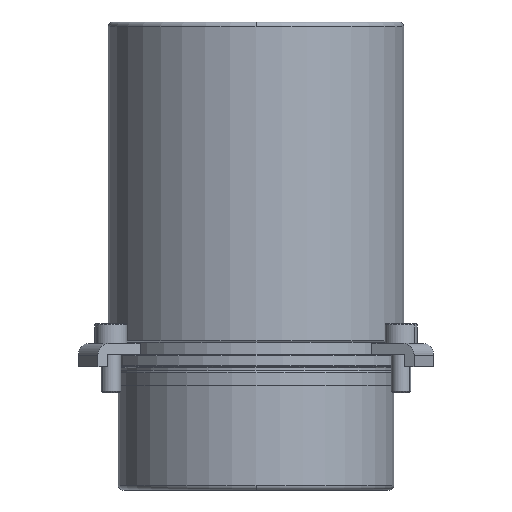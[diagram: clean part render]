
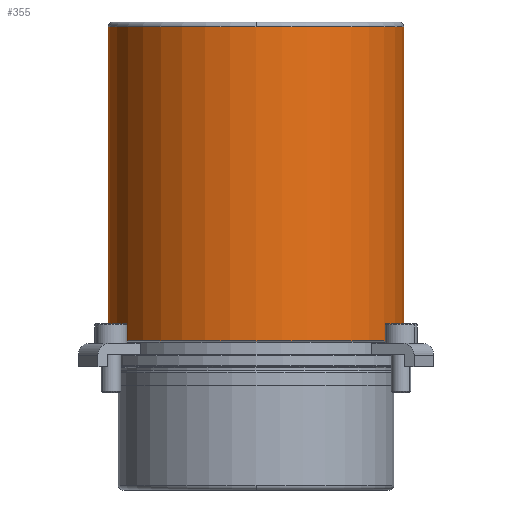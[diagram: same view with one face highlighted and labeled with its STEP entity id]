
A CAD part, front view. The second image highlights one B-rep face of the part: STEP entity #355.
In plain terms, the highlighted cylindrical face has radius 60 mm (diameter 120 mm), a partial arc.
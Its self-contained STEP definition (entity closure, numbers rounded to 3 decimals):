
#269=CARTESIAN_POINT('',(0.0,-60.,138.0));
#270=VERTEX_POINT('',#269);
#296=CARTESIAN_POINT('',(-60.0,0.,138.0));
#297=VERTEX_POINT('',#296);
#305=CARTESIAN_POINT('',(0.0,0.,138.0));
#306=DIRECTION('',(0.0,0.0,1.0));
#307=DIRECTION('',(1.0,0.0,0.0));
#308=AXIS2_PLACEMENT_3D('',#305,#306,#307);
#309=CIRCLE('',#308,60.0);
#310=EDGE_CURVE('',#297,#270,#309,.T.);
#315=CARTESIAN_POINT('',(0.0,0.,74.25));
#316=DIRECTION('',(0.0,0.,1.0));
#317=DIRECTION('',(1.0,0.0,0.0));
#318=AXIS2_PLACEMENT_3D('',#315,#316,#317);
#319=CYLINDRICAL_SURFACE('',#318,60.0);
#320=CARTESIAN_POINT('',(60.0,0.,138.0));
#321=VERTEX_POINT('',#320);
#322=CARTESIAN_POINT('',(60.0,0.,10.5));
#323=VERTEX_POINT('',#322);
#324=CARTESIAN_POINT('',(60.0,0.,138.0));
#325=DIRECTION('',(0.0,0.0,-1.0));
#326=VECTOR('',#325,127.5);
#327=LINE('',#324,#326);
#328=EDGE_CURVE('',#321,#323,#327,.T.);
#329=ORIENTED_EDGE('',*,*,#328,.F.);
#330=CARTESIAN_POINT('',(0.0,0.,138.0));
#331=DIRECTION('',(0.0,0.0,1.0));
#332=DIRECTION('',(1.0,0.0,0.0));
#333=AXIS2_PLACEMENT_3D('',#330,#331,#332);
#334=CIRCLE('',#333,60.0);
#335=EDGE_CURVE('',#270,#321,#334,.T.);
#336=ORIENTED_EDGE('',*,*,#335,.F.);
#337=ORIENTED_EDGE('',*,*,#310,.F.);
#338=CARTESIAN_POINT('',(-60.0,0.,10.5));
#339=VERTEX_POINT('',#338);
#340=CARTESIAN_POINT('',(-60.0,0.,138.0));
#341=DIRECTION('',(0.0,0.0,-1.0));
#342=VECTOR('',#341,127.5);
#343=LINE('',#340,#342);
#344=EDGE_CURVE('',#297,#339,#343,.T.);
#345=ORIENTED_EDGE('',*,*,#344,.T.);
#346=CARTESIAN_POINT('',(0.0,0.,10.5));
#347=DIRECTION('',(0.0,0.0,1.0));
#348=DIRECTION('',(1.0,0.0,0.0));
#349=AXIS2_PLACEMENT_3D('',#346,#347,#348);
#350=CIRCLE('',#349,60.0);
#351=EDGE_CURVE('',#339,#323,#350,.T.);
#352=ORIENTED_EDGE('',*,*,#351,.T.);
#353=EDGE_LOOP('',(#329,#336,#337,#345,#352));
#354=FACE_OUTER_BOUND('',#353,.T.);
#355=ADVANCED_FACE('',(#354),#319,.T.);
